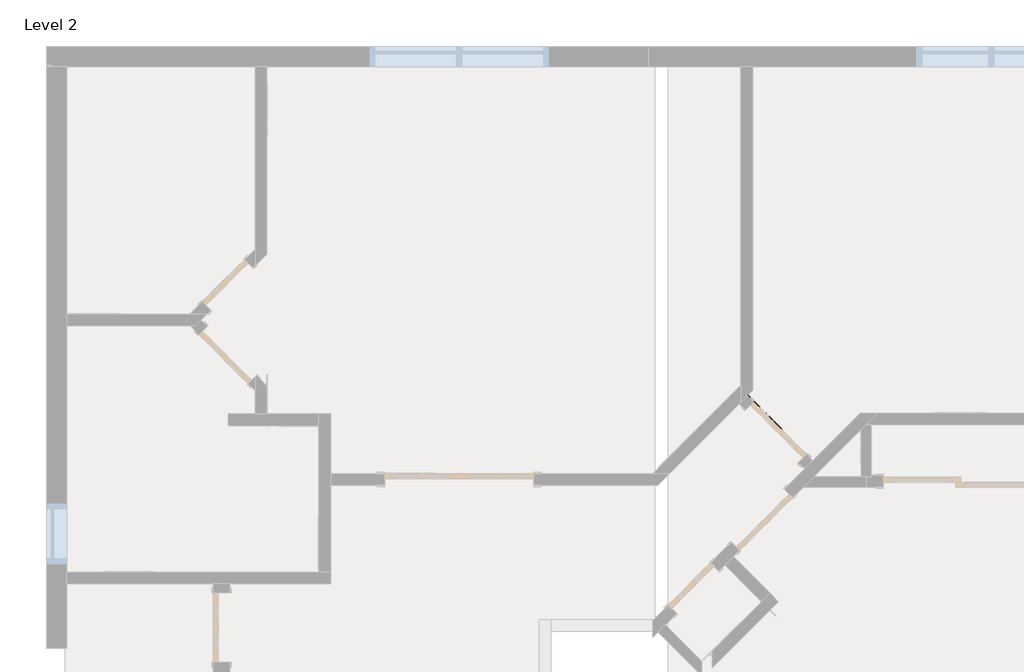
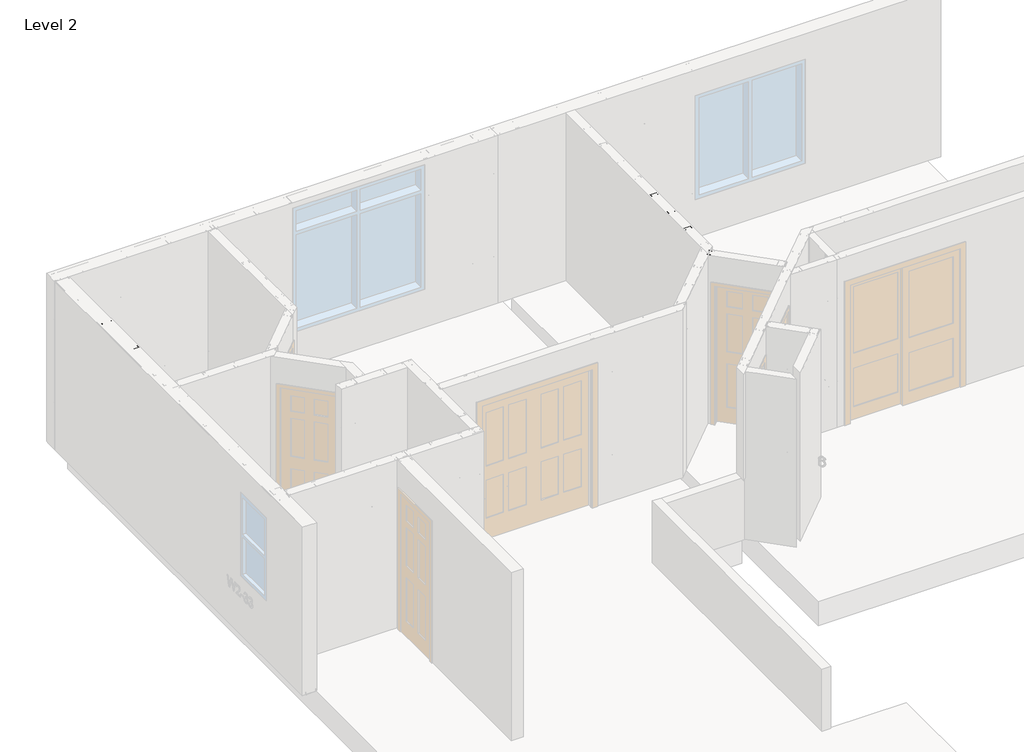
# One storey, part 33 of 46: 6 columns, 1 fastener.
"""IFC4 building model written with IfcOpenShell, lengths in millimetres."""

from ifc_helpers import new_model, si_unit, point, frame, origin, place, context, project, spatial, circle_curve, ellipse_curve, trimmed, transform, mapped, element, save
from ifc_brep_helpers import plane_surface, extruded_surface, advanced_brep
from components import panellabel_6e815555

model = new_model("IFC4")

# Units and contexts
model_context = context("Model", 3, world=origin())
ifc_project = project(units=[si_unit("LENGTHUNIT", "METRE", prefix="MILLI")], contexts=[model_context])

# Site, building, storey
site = spatial("IfcSite", under=ifc_project)
building = spatial("IfcBuilding", under=site)
storey = spatial("IfcBuildingStorey", under=building, Name="Level 2", Elevation=3060.7)

# Columns
placement = place(None, origin())
element("IfcColumn", 1, ObjectType="BIMSF-SSMA-S-Column : 350NF150-33", at=placement, inside=storey, context=model_context, shape_type="AdvancedBrep", body=[
    advanced_brep(
    [(-8208.0235524, 11852.402221, 3061.5929687), (-8119.1235524, 11852.402221, 3061.5929687), (-8119.1235524, 11814.302221, 3061.5929687), (-8124.7810682, 11814.302221, 3061.5929687), (-8124.7810682, 11815.1845367, 3061.5929687), (-8120.0058682, 11815.1845367, 3061.5929687), (-8120.0058682, 11851.5199052, 3061.5929687), (-8207.1412366, 11851.5199052, 3061.5929687), (-8207.1412366, 11815.1845367, 3061.5929687), (-8202.3660366, 11815.1845367, 3061.5929687), (-8202.3660366, 11814.302221, 3061.5929687), (-8208.0235524, 11814.302221, 3061.5929687), (-8208.0235524, 11852.402221, 5523.6070313), (-8119.1235524, 11852.402221, 5523.6070313), (-8150.8735524, 11852.402221, 3671.1929688), (-8176.2735524, 11852.402221, 3671.1929688), (-8150.8735524, 11852.402221, 4890.3929687), (-8176.2735524, 11852.402221, 4890.3929687), (-8119.1235524, 11814.302221, 5523.6070313), (-8124.7810682, 11814.302221, 5523.6070313), (-8124.7810682, 11815.1845367, 5523.6070313), (-8120.0058682, 11815.1845367, 5523.6070313), (-8120.0058682, 11851.5199052, 5523.6070313), (-8207.1412366, 11851.5199052, 5523.6070313), (-8176.2735524, 11851.5199052, 3671.1929688), (-8150.8735524, 11851.5199052, 3671.1929688), (-8176.2735524, 11851.5199052, 4890.3929687), (-8150.8735524, 11851.5199052, 4890.3929687), (-8207.1412366, 11815.1845367, 5523.6070313), (-8202.3660366, 11815.1845367, 5523.6070313), (-8202.3660366, 11814.302221, 5523.6070313), (-8208.0235524, 11814.302221, 5523.6070313)],
    [
        (0, 1),
        (1, 2),
        (2, 3),
        (3, 4),
        (4, 5),
        (5, 6),
        (6, 7),
        (7, 8),
        (8, 9),
        (9, 10),
        (10, 11),
        (11, 0),
        (0, 12),
        (12, 13),
        (13, 1),
        (14, 15, circle_curve(frame((-8163.5735524, 11852.402221, 3671.1929688), z_axis=(0.0, -1.0, 0.0), x_axis=(1.0, 0.0, 0.0)), 12.7)),
        (15, 14, circle_curve(frame((-8163.5735524, 11852.402221, 3671.1929687), z_axis=(0.0, -1.0, 0.0), x_axis=(1.0, 0.0, 0.0)), 12.7)),
        (16, 17, circle_curve(frame((-8163.5735524, 11852.402221, 4890.3929687), z_axis=(0.0, -1.0, 0.0), x_axis=(1.0, 0.0, 0.0)), 12.7)),
        (17, 16, circle_curve(frame((-8163.5735524, 11852.402221, 4890.3929687), z_axis=(0.0, -1.0, 0.0), x_axis=(1.0, 0.0, 0.0)), 12.7)),
        (13, 18),
        (18, 2),
        (18, 19),
        (19, 3),
        (19, 20),
        (20, 4),
        (20, 21),
        (21, 5),
        (21, 22),
        (22, 6),
        (22, 23),
        (23, 7),
        (24, 25, circle_curve(frame((-8163.5735524, 11851.5199052, 3671.1929688), z_axis=(0.0, 1.0, 0.0), x_axis=(1.0, 0.0, 0.0)), 12.7)),
        (25, 24, circle_curve(frame((-8163.5735524, 11851.5199052, 3671.1929688), z_axis=(0.0, 1.0, 0.0), x_axis=(1.0, 0.0, 0.0)), 12.7)),
        (26, 27, circle_curve(frame((-8163.5735524, 11851.5199052, 4890.3929687), z_axis=(0.0, 1.0, 0.0), x_axis=(1.0, 0.0, 0.0)), 12.7)),
        (27, 26, circle_curve(frame((-8163.5735524, 11851.5199052, 4890.3929687), z_axis=(0.0, 1.0, 0.0), x_axis=(1.0, 0.0, 0.0)), 12.7)),
        (23, 28),
        (28, 8),
        (28, 29),
        (29, 9),
        (29, 30),
        (30, 10),
        (30, 31),
        (31, 11),
        (31, 12),
        (24, 15),
        (14, 25),
        (26, 17),
        (16, 27),
    ],
    [
        plane_surface(frame((-8208.0235524, 11852.402221, 3061.5929687), z_axis=(0.0, 0.0, -1.0), x_axis=(0.0, 1.0, 0.0))),
        plane_surface(frame((-8119.1235524, 11852.402221, 5523.6070313), z_axis=(0.0, 1.0, 0.0), x_axis=(0.0, 0.0, -1.0))),
        plane_surface(frame((-8119.1235524, 11814.302221, 5523.6070313), z_axis=(1.0, 0.0, 0.0), x_axis=(0.0, 0.0, -1.0))),
        plane_surface(frame((-8124.7810682, 11814.302221, 5523.6070313), z_axis=(0.0, -1.0, 0.0), x_axis=(0.0, 0.0, -1.0))),
        plane_surface(frame((-8124.7810682, 11815.1845367, 5523.6070313), z_axis=(-1.0, 0.0, 0.0), x_axis=(0.0, 0.0, -1.0))),
        plane_surface(frame((-8120.0058682, 11815.1845367, 5523.6070313), z_axis=(0.0, 1.0, 0.0), x_axis=(0.0, 0.0, -1.0))),
        plane_surface(frame((-8120.0058682, 11851.5199052, 5523.6070313), z_axis=(-1.0, 0.0, 0.0), x_axis=(0.0, 0.0, -1.0))),
        plane_surface(frame((-8207.1412366, 11851.5199052, 5523.6070313), z_axis=(0.0, -1.0, 0.0), x_axis=(0.0, 0.0, -1.0))),
        plane_surface(frame((-8207.1412366, 11815.1845367, 5523.6070313), z_axis=(1.0, 0.0, 0.0), x_axis=(0.0, 0.0, -1.0))),
        plane_surface(frame((-8202.3660366, 11815.1845367, 5523.6070313), z_axis=(0.0, 1.0, 0.0), x_axis=(0.0, 0.0, -1.0))),
        plane_surface(frame((-8202.3660366, 11814.302221, 5523.6070313), z_axis=(1.0, 0.0, 0.0), x_axis=(0.0, 0.0, -1.0))),
        plane_surface(frame((-8208.0235524, 11814.302221, 5523.6070313), z_axis=(0.0, -1.0, 0.0), x_axis=(0.0, 0.0, -1.0))),
        plane_surface(frame((-8208.0235524, 11852.402221, 5523.6070313), z_axis=(-1.0, 0.0, 0.0), x_axis=(0.0, 0.0, -1.0))),
        plane_surface(frame((-8208.0235524, 11852.402221, 5523.6070313), z_axis=(0.0, 0.0, 1.0), x_axis=(0.0, -1.0, 0.0))),
        extruded_surface(trimmed(ellipse_curve(frame((-8163.5735524, 9371.3381585, 3671.1929688), z_axis=(0.0, 1.0, 0.0), x_axis=(1.0, 0.0, 0.0)), 12.7, 12.7), [point((-8176.2735524, 9371.3381585, 3671.1929688))], [point((-8150.8735524, 9371.3381585, 3671.1929688))], True, "CARTESIAN"), (0.0, -4924.028125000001, 0.0), 4924.028125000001),
        extruded_surface(trimmed(ellipse_curve(frame((-8163.5735524, 9371.3381585, 3671.1929688), z_axis=(0.0, 1.0, 0.0), x_axis=(1.0, 0.0, 0.0)), 12.7, 12.7), [point((-8150.8735524, 9371.3381585, 3671.1929688))], [point((-8176.2735524, 9371.3381585, 3671.1929688))], True, "CARTESIAN"), (0.0, -4924.028125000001, 0.0), 4924.028125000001),
        extruded_surface(trimmed(ellipse_curve(frame((-8163.5735524, 9371.3381585, 4890.3929687), z_axis=(0.0, 1.0, 0.0), x_axis=(1.0, 0.0, 0.0)), 12.7, 12.7), [point((-8176.2735524, 9371.3381585, 4890.3929687))], [point((-8150.8735524, 9371.3381585, 4890.3929687))], True, "CARTESIAN"), (0.0, -4924.028125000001, 0.0), 4924.028125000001),
        extruded_surface(trimmed(ellipse_curve(frame((-8163.5735524, 9371.3381585, 4890.3929687), z_axis=(0.0, 1.0, 0.0), x_axis=(1.0, 0.0, 0.0)), 12.7, 12.7), [point((-8150.8735524, 9371.3381585, 4890.3929687))], [point((-8176.2735524, 9371.3381585, 4890.3929687))], True, "CARTESIAN"), (0.0, -4924.028125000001, 0.0), 4924.028125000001),
    ],
    [
        (0, [[1, 2, 3, 4, 5, 6, 7, 8, 9, 10, 11, 12]]),
        (1, [[-1, 13, 14, 15], [16, 17], [18, 19]]),
        (2, [[-2, -15, 20, 21]]),
        (3, [[-3, -21, 22, 23]]),
        (4, [[-4, -23, 24, 25]]),
        (5, [[-5, -25, 26, 27]]),
        (6, [[-6, -27, 28, 29]]),
        (7, [[-7, -29, 30, 31], [32, 33], [34, 35]]),
        (8, [[-8, -31, 36, 37]]),
        (9, [[-9, -37, 38, 39]]),
        (10, [[-10, -39, 40, 41]]),
        (11, [[-11, -41, 42, 43]]),
        (12, [[-12, -43, 44, -13]]),
        (13, [[-14, -44, -42, -40, -38, -36, -30, -28, -26, -24, -22, -20]]),
        (14, [[45, -16, 46, -32]]),
        (15, [[-45, -33, -46, -17]]),
        (16, [[47, -18, 48, -34]]),
        (17, [[-47, -35, -48, -19]]),
    ],
),
])
element("IfcColumn", 2, ObjectType="BIMSF-SSMA-S-Column : 350NF150-33", at=placement, inside=storey, context=model_context, shape_type="AdvancedBrep", body=[
    advanced_brep(
    [(-8208.0235524, 11446.002221, 3061.5929687), (-8119.1235524, 11446.002221, 3061.5929687), (-8119.1235524, 11407.902221, 3061.5929687), (-8124.7810682, 11407.902221, 3061.5929687), (-8124.7810682, 11408.7845367, 3061.5929687), (-8120.0058682, 11408.7845367, 3061.5929687), (-8120.0058682, 11445.1199052, 3061.5929687), (-8207.1412366, 11445.1199052, 3061.5929687), (-8207.1412366, 11408.7845367, 3061.5929687), (-8202.3660366, 11408.7845367, 3061.5929687), (-8202.3660366, 11407.902221, 3061.5929687), (-8208.0235524, 11407.902221, 3061.5929687), (-8208.0235524, 11446.002221, 5523.6070313), (-8119.1235524, 11446.002221, 5523.6070313), (-8150.8735524, 11446.002221, 3671.1929688), (-8176.2735524, 11446.002221, 3671.1929688), (-8150.8735524, 11446.002221, 4890.3929687), (-8176.2735524, 11446.002221, 4890.3929687), (-8119.1235524, 11407.902221, 5523.6070313), (-8124.7810682, 11407.902221, 5523.6070313), (-8124.7810682, 11408.7845367, 5523.6070313), (-8120.0058682, 11408.7845367, 5523.6070313), (-8120.0058682, 11445.1199052, 5523.6070313), (-8207.1412366, 11445.1199052, 5523.6070313), (-8176.2735524, 11445.1199052, 3671.1929688), (-8150.8735524, 11445.1199052, 3671.1929688), (-8176.2735524, 11445.1199052, 4890.3929687), (-8150.8735524, 11445.1199052, 4890.3929687), (-8207.1412366, 11408.7845367, 5523.6070313), (-8202.3660366, 11408.7845367, 5523.6070313), (-8202.3660366, 11407.902221, 5523.6070313), (-8208.0235524, 11407.902221, 5523.6070313)],
    [
        (0, 1),
        (1, 2),
        (2, 3),
        (3, 4),
        (4, 5),
        (5, 6),
        (6, 7),
        (7, 8),
        (8, 9),
        (9, 10),
        (10, 11),
        (11, 0),
        (0, 12),
        (12, 13),
        (13, 1),
        (14, 15, circle_curve(frame((-8163.5735524, 11446.002221, 3671.1929687), z_axis=(0.0, -1.0, 0.0), x_axis=(1.0, 0.0, 0.0)), 12.7)),
        (15, 14, circle_curve(frame((-8163.5735524, 11446.002221, 3671.1929687), z_axis=(0.0, -1.0, 0.0), x_axis=(1.0, 0.0, 0.0)), 12.7)),
        (16, 17, circle_curve(frame((-8163.5735524, 11446.002221, 4890.3929687), z_axis=(0.0, -1.0, 0.0), x_axis=(1.0, 0.0, 0.0)), 12.7)),
        (17, 16, circle_curve(frame((-8163.5735524, 11446.002221, 4890.3929687), z_axis=(0.0, -1.0, 0.0), x_axis=(1.0, 0.0, 0.0)), 12.7)),
        (13, 18),
        (18, 2),
        (18, 19),
        (19, 3),
        (19, 20),
        (20, 4),
        (20, 21),
        (21, 5),
        (21, 22),
        (22, 6),
        (22, 23),
        (23, 7),
        (24, 25, circle_curve(frame((-8163.5735524, 11445.1199052, 3671.1929688), z_axis=(0.0, 1.0, 0.0), x_axis=(1.0, 0.0, 0.0)), 12.7)),
        (25, 24, circle_curve(frame((-8163.5735524, 11445.1199052, 3671.1929688), z_axis=(0.0, 1.0, 0.0), x_axis=(1.0, 0.0, 0.0)), 12.7)),
        (26, 27, circle_curve(frame((-8163.5735524, 11445.1199052, 4890.3929687), z_axis=(0.0, 1.0, 0.0), x_axis=(1.0, 0.0, 0.0)), 12.7)),
        (27, 26, circle_curve(frame((-8163.5735524, 11445.1199052, 4890.3929687), z_axis=(0.0, 1.0, 0.0), x_axis=(1.0, 0.0, 0.0)), 12.7)),
        (23, 28),
        (28, 8),
        (28, 29),
        (29, 9),
        (29, 30),
        (30, 10),
        (30, 31),
        (31, 11),
        (31, 12),
        (24, 15),
        (14, 25),
        (26, 17),
        (16, 27),
    ],
    [
        plane_surface(frame((-8208.0235524, 11446.002221, 3061.5929687), z_axis=(0.0, 0.0, -1.0), x_axis=(0.0, 1.0, 0.0))),
        plane_surface(frame((-8119.1235524, 11446.002221, 5523.6070313), z_axis=(0.0, 1.0, 0.0), x_axis=(0.0, 0.0, -1.0))),
        plane_surface(frame((-8119.1235524, 11407.902221, 5523.6070313), z_axis=(1.0, 0.0, 0.0), x_axis=(0.0, 0.0, -1.0))),
        plane_surface(frame((-8124.7810682, 11407.902221, 5523.6070313), z_axis=(0.0, -1.0, 0.0), x_axis=(0.0, 0.0, -1.0))),
        plane_surface(frame((-8124.7810682, 11408.7845367, 5523.6070313), z_axis=(-1.0, 0.0, 0.0), x_axis=(0.0, 0.0, -1.0))),
        plane_surface(frame((-8120.0058682, 11408.7845367, 5523.6070313), z_axis=(0.0, 1.0, 0.0), x_axis=(0.0, 0.0, -1.0))),
        plane_surface(frame((-8120.0058682, 11445.1199052, 5523.6070313), z_axis=(-1.0, 0.0, 0.0), x_axis=(0.0, 0.0, -1.0))),
        plane_surface(frame((-8207.1412366, 11445.1199052, 5523.6070313), z_axis=(0.0, -1.0, 0.0), x_axis=(0.0, 0.0, -1.0))),
        plane_surface(frame((-8207.1412366, 11408.7845367, 5523.6070313), z_axis=(1.0, 0.0, 0.0), x_axis=(0.0, 0.0, -1.0))),
        plane_surface(frame((-8202.3660366, 11408.7845367, 5523.6070313), z_axis=(0.0, 1.0, 0.0), x_axis=(0.0, 0.0, -1.0))),
        plane_surface(frame((-8202.3660366, 11407.902221, 5523.6070313), z_axis=(1.0, 0.0, 0.0), x_axis=(0.0, 0.0, -1.0))),
        plane_surface(frame((-8208.0235524, 11407.902221, 5523.6070313), z_axis=(0.0, -1.0, 0.0), x_axis=(0.0, 0.0, -1.0))),
        plane_surface(frame((-8208.0235524, 11446.002221, 5523.6070313), z_axis=(-1.0, 0.0, 0.0), x_axis=(0.0, 0.0, -1.0))),
        plane_surface(frame((-8208.0235524, 11446.002221, 5523.6070313), z_axis=(0.0, 0.0, 1.0), x_axis=(0.0, -1.0, 0.0))),
        extruded_surface(trimmed(ellipse_curve(frame((-8163.5735524, 8964.9381585, 3671.1929688), z_axis=(0.0, 1.0, 0.0), x_axis=(1.0, 0.0, 0.0)), 12.7, 12.7), [point((-8176.2735524, 8964.9381585, 3671.1929688))], [point((-8150.8735524, 8964.9381585, 3671.1929688))], True, "CARTESIAN"), (0.0, -4924.028124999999, 0.0), 4924.028124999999),
        extruded_surface(trimmed(ellipse_curve(frame((-8163.5735524, 8964.9381585, 3671.1929688), z_axis=(0.0, 1.0, 0.0), x_axis=(1.0, 0.0, 0.0)), 12.7, 12.7), [point((-8150.8735524, 8964.9381585, 3671.1929688))], [point((-8176.2735524, 8964.9381585, 3671.1929688))], True, "CARTESIAN"), (0.0, -4924.028124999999, 0.0), 4924.028124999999),
        extruded_surface(trimmed(ellipse_curve(frame((-8163.5735524, 8964.9381585, 4890.3929687), z_axis=(0.0, 1.0, 0.0), x_axis=(1.0, 0.0, 0.0)), 12.7, 12.7), [point((-8176.2735524, 8964.9381585, 4890.3929687))], [point((-8150.8735524, 8964.9381585, 4890.3929687))], True, "CARTESIAN"), (0.0, -4924.028124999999, 0.0), 4924.028124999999),
        extruded_surface(trimmed(ellipse_curve(frame((-8163.5735524, 8964.9381585, 4890.3929687), z_axis=(0.0, 1.0, 0.0), x_axis=(1.0, 0.0, 0.0)), 12.7, 12.7), [point((-8150.8735524, 8964.9381585, 4890.3929687))], [point((-8176.2735524, 8964.9381585, 4890.3929687))], True, "CARTESIAN"), (0.0, -4924.028124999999, 0.0), 4924.028124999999),
    ],
    [
        (0, [[1, 2, 3, 4, 5, 6, 7, 8, 9, 10, 11, 12]]),
        (1, [[-1, 13, 14, 15], [16, 17], [18, 19]]),
        (2, [[-2, -15, 20, 21]]),
        (3, [[-3, -21, 22, 23]]),
        (4, [[-4, -23, 24, 25]]),
        (5, [[-5, -25, 26, 27]]),
        (6, [[-6, -27, 28, 29]]),
        (7, [[-7, -29, 30, 31], [32, 33], [34, 35]]),
        (8, [[-8, -31, 36, 37]]),
        (9, [[-9, -37, 38, 39]]),
        (10, [[-10, -39, 40, 41]]),
        (11, [[-11, -41, 42, 43]]),
        (12, [[-12, -43, 44, -13]]),
        (13, [[-14, -44, -42, -40, -38, -36, -30, -28, -26, -24, -22, -20]]),
        (14, [[45, -16, 46, -32]]),
        (15, [[-45, -33, -46, -17]]),
        (16, [[47, -18, 48, -34]]),
        (17, [[-47, -35, -48, -19]]),
    ],
),
])
element("IfcColumn", 3, ObjectType="BIMSF-SSMA-S-Column : 350NF150-33", at=placement, inside=storey, context=model_context, shape_type="AdvancedBrep", body=[
    advanced_brep(
    [(-8208.0235524, 11039.602221, 3061.5929687), (-8119.1235524, 11039.602221, 3061.5929687), (-8119.1235524, 11001.502221, 3061.5929687), (-8124.7810682, 11001.502221, 3061.5929687), (-8124.7810682, 11002.3845367, 3061.5929687), (-8120.0058682, 11002.3845367, 3061.5929687), (-8120.0058682, 11038.7199052, 3061.5929687), (-8207.1412366, 11038.7199052, 3061.5929687), (-8207.1412366, 11002.3845367, 3061.5929687), (-8202.3660366, 11002.3845367, 3061.5929687), (-8202.3660366, 11001.502221, 3061.5929687), (-8208.0235524, 11001.502221, 3061.5929687), (-8208.0235524, 11039.602221, 5523.6070313), (-8119.1235524, 11039.602221, 5523.6070313), (-8150.8735524, 11039.602221, 3671.1929688), (-8176.2735524, 11039.602221, 3671.1929688), (-8150.8735524, 11039.602221, 4890.3929687), (-8176.2735524, 11039.602221, 4890.3929687), (-8119.1235524, 11001.502221, 5523.6070313), (-8124.7810682, 11001.502221, 5523.6070313), (-8124.7810682, 11002.3845367, 5523.6070313), (-8120.0058682, 11002.3845367, 5523.6070313), (-8120.0058682, 11038.7199052, 5523.6070313), (-8207.1412366, 11038.7199052, 5523.6070313), (-8176.2735524, 11038.7199052, 3671.1929688), (-8150.8735524, 11038.7199052, 3671.1929688), (-8176.2735524, 11038.7199052, 4890.3929687), (-8150.8735524, 11038.7199052, 4890.3929687), (-8207.1412366, 11002.3845367, 5523.6070313), (-8202.3660366, 11002.3845367, 5523.6070313), (-8202.3660366, 11001.502221, 5523.6070313), (-8208.0235524, 11001.502221, 5523.6070313)],
    [
        (0, 1),
        (1, 2),
        (2, 3),
        (3, 4),
        (4, 5),
        (5, 6),
        (6, 7),
        (7, 8),
        (8, 9),
        (9, 10),
        (10, 11),
        (11, 0),
        (0, 12),
        (12, 13),
        (13, 1),
        (14, 15, circle_curve(frame((-8163.5735524, 11039.602221, 3671.1929687), z_axis=(0.0, -1.0, 0.0), x_axis=(1.0, 0.0, 0.0)), 12.7)),
        (15, 14, circle_curve(frame((-8163.5735524, 11039.602221, 3671.1929687), z_axis=(0.0, -1.0, 0.0), x_axis=(1.0, 0.0, 0.0)), 12.7)),
        (16, 17, circle_curve(frame((-8163.5735524, 11039.602221, 4890.3929687), z_axis=(0.0, -1.0, 0.0), x_axis=(1.0, 0.0, 0.0)), 12.7)),
        (17, 16, circle_curve(frame((-8163.5735524, 11039.602221, 4890.3929687), z_axis=(0.0, -1.0, 0.0), x_axis=(1.0, 0.0, 0.0)), 12.7)),
        (13, 18),
        (18, 2),
        (18, 19),
        (19, 3),
        (19, 20),
        (20, 4),
        (20, 21),
        (21, 5),
        (21, 22),
        (22, 6),
        (22, 23),
        (23, 7),
        (24, 25, circle_curve(frame((-8163.5735524, 11038.7199052, 3671.1929688), z_axis=(0.0, 1.0, 0.0), x_axis=(1.0, 0.0, 0.0)), 12.7)),
        (25, 24, circle_curve(frame((-8163.5735524, 11038.7199052, 3671.1929688), z_axis=(0.0, 1.0, 0.0), x_axis=(1.0, 0.0, 0.0)), 12.7)),
        (26, 27, circle_curve(frame((-8163.5735524, 11038.7199052, 4890.3929687), z_axis=(0.0, 1.0, 0.0), x_axis=(1.0, 0.0, 0.0)), 12.7)),
        (27, 26, circle_curve(frame((-8163.5735524, 11038.7199052, 4890.3929687), z_axis=(0.0, 1.0, 0.0), x_axis=(1.0, 0.0, 0.0)), 12.7)),
        (23, 28),
        (28, 8),
        (28, 29),
        (29, 9),
        (29, 30),
        (30, 10),
        (30, 31),
        (31, 11),
        (31, 12),
        (24, 15),
        (14, 25),
        (26, 17),
        (16, 27),
    ],
    [
        plane_surface(frame((-8208.0235524, 11039.602221, 3061.5929687), z_axis=(0.0, 0.0, -1.0), x_axis=(0.0, 1.0, 0.0))),
        plane_surface(frame((-8119.1235524, 11039.602221, 5523.6070313), z_axis=(0.0, 1.0, 0.0), x_axis=(0.0, 0.0, -1.0))),
        plane_surface(frame((-8119.1235524, 11001.502221, 5523.6070313), z_axis=(1.0, 0.0, 0.0), x_axis=(0.0, 0.0, -1.0))),
        plane_surface(frame((-8124.7810682, 11001.502221, 5523.6070313), z_axis=(0.0, -1.0, 0.0), x_axis=(0.0, 0.0, -1.0))),
        plane_surface(frame((-8124.7810682, 11002.3845367, 5523.6070313), z_axis=(-1.0, 0.0, 0.0), x_axis=(0.0, 0.0, -1.0))),
        plane_surface(frame((-8120.0058682, 11002.3845367, 5523.6070313), z_axis=(0.0, 1.0, 0.0), x_axis=(0.0, 0.0, -1.0))),
        plane_surface(frame((-8120.0058682, 11038.7199052, 5523.6070313), z_axis=(-1.0, 0.0, 0.0), x_axis=(0.0, 0.0, -1.0))),
        plane_surface(frame((-8207.1412366, 11038.7199052, 5523.6070313), z_axis=(0.0, -1.0, 0.0), x_axis=(0.0, 0.0, -1.0))),
        plane_surface(frame((-8207.1412366, 11002.3845367, 5523.6070313), z_axis=(1.0, 0.0, 0.0), x_axis=(0.0, 0.0, -1.0))),
        plane_surface(frame((-8202.3660366, 11002.3845367, 5523.6070313), z_axis=(0.0, 1.0, 0.0), x_axis=(0.0, 0.0, -1.0))),
        plane_surface(frame((-8202.3660366, 11001.502221, 5523.6070313), z_axis=(1.0, 0.0, 0.0), x_axis=(0.0, 0.0, -1.0))),
        plane_surface(frame((-8208.0235524, 11001.502221, 5523.6070313), z_axis=(0.0, -1.0, 0.0), x_axis=(0.0, 0.0, -1.0))),
        plane_surface(frame((-8208.0235524, 11039.602221, 5523.6070313), z_axis=(-1.0, 0.0, 0.0), x_axis=(0.0, 0.0, -1.0))),
        plane_surface(frame((-8208.0235524, 11039.602221, 5523.6070313), z_axis=(0.0, 0.0, 1.0), x_axis=(0.0, -1.0, 0.0))),
        extruded_surface(trimmed(ellipse_curve(frame((-8163.5735524, 8558.5381585, 3671.1929688), z_axis=(0.0, 1.0, 0.0), x_axis=(1.0, 0.0, 0.0)), 12.7, 12.7), [point((-8176.2735524, 8558.5381585, 3671.1929688))], [point((-8150.8735524, 8558.5381585, 3671.1929688))], True, "CARTESIAN"), (0.0, -4924.028124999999, 0.0), 4924.028124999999),
        extruded_surface(trimmed(ellipse_curve(frame((-8163.5735524, 8558.5381585, 3671.1929688), z_axis=(0.0, 1.0, 0.0), x_axis=(1.0, 0.0, 0.0)), 12.7, 12.7), [point((-8150.8735524, 8558.5381585, 3671.1929688))], [point((-8176.2735524, 8558.5381585, 3671.1929688))], True, "CARTESIAN"), (0.0, -4924.028124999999, 0.0), 4924.028124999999),
        extruded_surface(trimmed(ellipse_curve(frame((-8163.5735524, 8558.5381585, 4890.3929687), z_axis=(0.0, 1.0, 0.0), x_axis=(1.0, 0.0, 0.0)), 12.7, 12.7), [point((-8176.2735524, 8558.5381585, 4890.3929687))], [point((-8150.8735524, 8558.5381585, 4890.3929687))], True, "CARTESIAN"), (0.0, -4924.028124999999, 0.0), 4924.028124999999),
        extruded_surface(trimmed(ellipse_curve(frame((-8163.5735524, 8558.5381585, 4890.3929687), z_axis=(0.0, 1.0, 0.0), x_axis=(1.0, 0.0, 0.0)), 12.7, 12.7), [point((-8150.8735524, 8558.5381585, 4890.3929687))], [point((-8176.2735524, 8558.5381585, 4890.3929687))], True, "CARTESIAN"), (0.0, -4924.028124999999, 0.0), 4924.028124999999),
    ],
    [
        (0, [[1, 2, 3, 4, 5, 6, 7, 8, 9, 10, 11, 12]]),
        (1, [[-1, 13, 14, 15], [16, 17], [18, 19]]),
        (2, [[-2, -15, 20, 21]]),
        (3, [[-3, -21, 22, 23]]),
        (4, [[-4, -23, 24, 25]]),
        (5, [[-5, -25, 26, 27]]),
        (6, [[-6, -27, 28, 29]]),
        (7, [[-7, -29, 30, 31], [32, 33], [34, 35]]),
        (8, [[-8, -31, 36, 37]]),
        (9, [[-9, -37, 38, 39]]),
        (10, [[-10, -39, 40, 41]]),
        (11, [[-11, -41, 42, 43]]),
        (12, [[-12, -43, 44, -13]]),
        (13, [[-14, -44, -42, -40, -38, -36, -30, -28, -26, -24, -22, -20]]),
        (14, [[45, -16, 46, -32]]),
        (15, [[-45, -33, -46, -17]]),
        (16, [[47, -18, 48, -34]]),
        (17, [[-47, -35, -48, -19]]),
    ],
),
])
element("IfcColumn", 4, ObjectType="BIMSF-SSMA-S-Column : 350NF150-33", at=placement, inside=storey, context=model_context, shape_type="AdvancedBrep", body=[
    advanced_brep(
    [(-8239.234478, 10429.7104921, 3061.5929687), (-8176.3726852, 10492.572285, 3061.5929687), (-8149.4319168, 10465.6315166, 3061.5929687), (-8153.4323846, 10461.6310488, 3061.5929687), (-8154.056276, 10462.2549403, 3061.5929687), (-8150.6796997, 10465.6315166, 3061.5929687), (-8176.3726852, 10491.324502, 3061.5929687), (-8237.9866951, 10429.7104921, 3061.5929687), (-8212.2937096, 10404.0175067, 3061.5929687), (-8208.9171333, 10407.394083, 3061.5929687), (-8208.2932419, 10406.7701915, 3061.5929687), (-8212.2937096, 10402.7697238, 3061.5929687), (-8239.234478, 10429.7104921, 5523.6070313), (-8176.3726852, 10492.572285, 5523.6070313), (-8198.8233255, 10470.1216447, 3671.1929687), (-8216.7838377, 10452.1611324, 3671.1929687), (-8198.8233255, 10470.1216447, 4890.3929687), (-8216.7838377, 10452.1611324, 4890.3929687), (-8149.4319168, 10465.6315166, 5523.6070313), (-8153.4323846, 10461.6310488, 5523.6070313), (-8154.056276, 10462.2549403, 5523.6070313), (-8150.6796997, 10465.6315166, 5523.6070313), (-8176.3726852, 10491.324502, 5523.6070313), (-8237.9866951, 10429.7104921, 5523.6070313), (-8216.1599462, 10451.537241, 3671.1929687), (-8198.199434, 10469.4977532, 3671.1929687), (-8216.1599462, 10451.537241, 4890.3929687), (-8198.199434, 10469.4977532, 4890.3929687), (-8212.2937096, 10404.0175067, 5523.6070313), (-8208.9171333, 10407.394083, 5523.6070313), (-8208.2932419, 10406.7701915, 5523.6070313), (-8212.2937096, 10402.7697238, 5523.6070313)],
    [
        (0, 1),
        (1, 2),
        (2, 3),
        (3, 4),
        (4, 5),
        (5, 6),
        (6, 7),
        (7, 8),
        (8, 9),
        (9, 10),
        (10, 11),
        (11, 0),
        (0, 12),
        (12, 13),
        (13, 1),
        (14, 15, circle_curve(frame((-8207.8035816, 10461.1413886, 3671.1929688), z_axis=(0.7071067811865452, -0.7071067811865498, 0.0), x_axis=(0.7071067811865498, 0.7071067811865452, 0.0)), 12.7)),
        (15, 14, circle_curve(frame((-8207.8035816, 10461.1413886, 3671.1929687), z_axis=(0.7071067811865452, -0.7071067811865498, 0.0), x_axis=(0.7071067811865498, 0.7071067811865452, 0.0)), 12.7)),
        (16, 17, circle_curve(frame((-8207.8035816, 10461.1413886, 4890.3929687), z_axis=(0.7071067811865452, -0.7071067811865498, 0.0), x_axis=(0.7071067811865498, 0.7071067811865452, 0.0)), 12.7)),
        (17, 16, circle_curve(frame((-8207.8035816, 10461.1413886, 4890.3929687), z_axis=(0.7071067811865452, -0.7071067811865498, 0.0), x_axis=(0.7071067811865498, 0.7071067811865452, 0.0)), 12.7)),
        (13, 18),
        (18, 2),
        (18, 19),
        (19, 3),
        (19, 20),
        (20, 4),
        (20, 21),
        (21, 5),
        (21, 22),
        (22, 6),
        (22, 23),
        (23, 7),
        (24, 25, circle_curve(frame((-8207.1796901, 10460.5174971, 3671.1929687), z_axis=(-0.7071067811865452, 0.7071067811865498, 0.0), x_axis=(0.7071067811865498, 0.7071067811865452, 0.0)), 12.7)),
        (25, 24, circle_curve(frame((-8207.1796901, 10460.5174971, 3671.1929688), z_axis=(-0.7071067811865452, 0.7071067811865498, 0.0), x_axis=(0.7071067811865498, 0.7071067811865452, 0.0)), 12.7)),
        (26, 27, circle_curve(frame((-8207.1796901, 10460.5174971, 4890.3929687), z_axis=(-0.7071067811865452, 0.7071067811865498, 0.0), x_axis=(0.7071067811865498, 0.7071067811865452, 0.0)), 12.7)),
        (27, 26, circle_curve(frame((-8207.1796901, 10460.5174971, 4890.3929687), z_axis=(-0.7071067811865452, 0.7071067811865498, 0.0), x_axis=(0.7071067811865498, 0.7071067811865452, 0.0)), 12.7)),
        (23, 28),
        (28, 8),
        (28, 29),
        (29, 9),
        (29, 30),
        (30, 10),
        (30, 31),
        (31, 11),
        (31, 12),
        (24, 15),
        (14, 25),
        (26, 17),
        (16, 27),
    ],
    [
        plane_surface(frame((-8239.234478, 10429.7104921, 3061.5929687), z_axis=(0.0, 0.0, -1.0), x_axis=(-0.7071067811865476, 0.7071067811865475, 0.0))),
        plane_surface(frame((-8176.3726852, 10492.572285, 5523.6070313), z_axis=(-0.7071067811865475, 0.7071067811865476, 0.0), x_axis=(0.0, 0.0, -1.0))),
        plane_surface(frame((-8149.4319168, 10465.6315166, 5523.6070313), z_axis=(0.7071067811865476, 0.7071067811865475, 0.0), x_axis=(0.0, 0.0, -1.0))),
        plane_surface(frame((-8153.4323846, 10461.6310488, 5523.6070313), z_axis=(0.7071067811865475, -0.7071067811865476, 0.0), x_axis=(0.0, 0.0, -1.0))),
        plane_surface(frame((-8154.056276, 10462.2549403, 5523.6070313), z_axis=(-0.7071067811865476, -0.7071067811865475, 0.0), x_axis=(0.0, 0.0, -1.0))),
        plane_surface(frame((-8150.6796997, 10465.6315166, 5523.6070313), z_axis=(-0.7071067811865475, 0.7071067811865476, 0.0), x_axis=(0.0, 0.0, -1.0))),
        plane_surface(frame((-8176.3726852, 10491.324502, 5523.6070313), z_axis=(-0.7071067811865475, -0.7071067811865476, 0.0), x_axis=(0.0, 0.0, -1.0))),
        plane_surface(frame((-8237.9866951, 10429.7104921, 5523.6070313), z_axis=(0.7071067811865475, -0.7071067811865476, 0.0), x_axis=(0.0, 0.0, -1.0))),
        plane_surface(frame((-8212.2937096, 10404.0175067, 5523.6070313), z_axis=(0.7071067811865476, 0.7071067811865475, 0.0), x_axis=(0.0, 0.0, -1.0))),
        plane_surface(frame((-8208.9171333, 10407.394083, 5523.6070313), z_axis=(-0.7071067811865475, 0.7071067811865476, 0.0), x_axis=(0.0, 0.0, -1.0))),
        plane_surface(frame((-8208.2932419, 10406.7701915, 5523.6070313), z_axis=(0.7071067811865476, 0.7071067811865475, 0.0), x_axis=(0.0, 0.0, -1.0))),
        plane_surface(frame((-8212.2937096, 10402.7697238, 5523.6070313), z_axis=(0.7071067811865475, -0.7071067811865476, 0.0), x_axis=(0.0, 0.0, -1.0))),
        plane_surface(frame((-8239.234478, 10429.7104921, 5523.6070313), z_axis=(-0.7071067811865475, -0.7071067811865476, 0.0), x_axis=(0.0, 0.0, -1.0))),
        plane_surface(frame((-8239.234478, 10429.7104921, 5523.6070313), z_axis=(0.0, 0.0, 1.0), x_axis=(0.7071067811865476, -0.7071067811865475, 0.0))),
        extruded_surface(trimmed(ellipse_curve(frame((-6453.4263584, 8706.7641654, 3671.1929688), z_axis=(-0.7071067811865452, 0.7071067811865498, 0.0), x_axis=(0.7071067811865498, 0.7071067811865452, 0.0)), 12.7, 12.7), [point((-6462.4066146, 8697.7839093, 3671.1929688))], [point((-6444.4461023, 8715.7444215, 3671.1929688))], True, "CARTESIAN"), (3481.8136779, -3481.8136778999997, 0.0), 4924.028124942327),
        extruded_surface(trimmed(ellipse_curve(frame((-6453.4263584, 8706.7641654, 3671.1929688), z_axis=(-0.7071067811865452, 0.7071067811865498, 0.0), x_axis=(0.7071067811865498, 0.7071067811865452, 0.0)), 12.7, 12.7), [point((-6444.4461023, 8715.7444215, 3671.1929688))], [point((-6462.4066146, 8697.7839093, 3671.1929688))], True, "CARTESIAN"), (3481.8136779, -3481.8136778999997, 0.0), 4924.028124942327),
        extruded_surface(trimmed(ellipse_curve(frame((-6453.4263584, 8706.7641654, 4890.3929687), z_axis=(-0.7071067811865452, 0.7071067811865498, 0.0), x_axis=(0.7071067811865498, 0.7071067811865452, 0.0)), 12.7, 12.7), [point((-6462.4066146, 8697.7839093, 4890.3929687))], [point((-6444.4461023, 8715.7444215, 4890.3929687))], True, "CARTESIAN"), (3481.8136779, -3481.8136778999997, 0.0), 4924.028124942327),
        extruded_surface(trimmed(ellipse_curve(frame((-6453.4263584, 8706.7641654, 4890.3929687), z_axis=(-0.7071067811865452, 0.7071067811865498, 0.0), x_axis=(0.7071067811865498, 0.7071067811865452, 0.0)), 12.7, 12.7), [point((-6444.4461023, 8715.7444215, 4890.3929687))], [point((-6462.4066146, 8697.7839093, 4890.3929687))], True, "CARTESIAN"), (3481.8136779, -3481.8136778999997, 0.0), 4924.028124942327),
    ],
    [
        (0, [[1, 2, 3, 4, 5, 6, 7, 8, 9, 10, 11, 12]]),
        (1, [[-1, 13, 14, 15], [16, 17], [18, 19]]),
        (2, [[-2, -15, 20, 21]]),
        (3, [[-3, -21, 22, 23]]),
        (4, [[-4, -23, 24, 25]]),
        (5, [[-5, -25, 26, 27]]),
        (6, [[-6, -27, 28, 29]]),
        (7, [[-7, -29, 30, 31], [32, 33], [34, 35]]),
        (8, [[-8, -31, 36, 37]]),
        (9, [[-9, -37, 38, 39]]),
        (10, [[-10, -39, 40, 41]]),
        (11, [[-11, -41, 42, 43]]),
        (12, [[-12, -43, 44, -13]]),
        (13, [[-14, -44, -42, -40, -38, -36, -30, -28, -26, -24, -22, -20]]),
        (14, [[45, -16, 46, -32]]),
        (15, [[-45, -33, -46, -17]]),
        (16, [[47, -18, 48, -34]]),
        (17, [[-47, -35, -48, -19]]),
    ],
),
])
element("IfcColumn", 5, ObjectType="BIMSF-SSMA-S-Column : 550NF150-43", at=placement, inside=storey, context=model_context, shape_type="AdvancedBrep", body=[
    advanced_brep(
    [(-15124.2413349, 12155.8627774, 3061.5929687), (-15263.9413349, 12155.8627774, 3061.5929687), (-15263.9413349, 12193.9627774, 3061.5929687), (-15258.0164507, 12193.9627774, 3061.5929687), (-15258.0164507, 12192.8130931, 3061.5929687), (-15262.7916507, 12192.8130931, 3061.5929687), (-15262.7916507, 12157.0124616, 3061.5929687), (-15125.3910191, 12157.0124616, 3061.5929687), (-15125.3910191, 12192.8130931, 3061.5929687), (-15130.1662191, 12192.8130931, 3061.5929687), (-15130.1662191, 12193.9627774, 3061.5929687), (-15124.2413349, 12193.9627774, 3061.5929687), (-15124.2413349, 12155.8627774, 5523.6070313), (-15263.9413349, 12155.8627774, 5523.6070313), (-15206.7913349, 12155.8627774, 3671.1929687), (-15181.3913349, 12155.8627774, 3671.1929688), (-15206.7913349, 12155.8627774, 4890.3929687), (-15181.3913349, 12155.8627774, 4890.3929688), (-15263.9413349, 12193.9627774, 5523.6070313), (-15258.0164507, 12193.9627774, 5523.6070313), (-15258.0164507, 12192.8130931, 5523.6070313), (-15262.7916507, 12192.8130931, 5523.6070313), (-15262.7916507, 12157.0124616, 5523.6070313), (-15125.3910191, 12157.0124616, 5523.6070313), (-15181.3913349, 12157.0124616, 3671.1929688), (-15206.7913349, 12157.0124616, 3671.1929688), (-15181.3913349, 12157.0124616, 4890.3929688), (-15206.7913349, 12157.0124616, 4890.3929687), (-15125.3910191, 12192.8130931, 5523.6070313), (-15130.1662191, 12192.8130931, 5523.6070313), (-15130.1662191, 12193.9627774, 5523.6070313), (-15124.2413349, 12193.9627774, 5523.6070313)],
    [
        (0, 1),
        (1, 2),
        (2, 3),
        (3, 4),
        (4, 5),
        (5, 6),
        (6, 7),
        (7, 8),
        (8, 9),
        (9, 10),
        (10, 11),
        (11, 0),
        (0, 12),
        (12, 13),
        (13, 1),
        (14, 15, circle_curve(frame((-15194.0913349, 12155.8627774, 3671.1929687), z_axis=(0.0, 1.0, 0.0), x_axis=(-1.0, 0.0, 0.0)), 12.7)),
        (15, 14, circle_curve(frame((-15194.0913349, 12155.8627774, 3671.1929687), z_axis=(0.0, 1.0, 0.0), x_axis=(-1.0, 0.0, 0.0)), 12.7)),
        (16, 17, circle_curve(frame((-15194.0913349, 12155.8627774, 4890.3929687), z_axis=(0.0, 1.0, 0.0), x_axis=(-1.0, 0.0, 0.0)), 12.7)),
        (17, 16, circle_curve(frame((-15194.0913349, 12155.8627774, 4890.3929687), z_axis=(0.0, 1.0, 0.0), x_axis=(-1.0, 0.0, 0.0)), 12.7)),
        (13, 18),
        (18, 2),
        (18, 19),
        (19, 3),
        (19, 20),
        (20, 4),
        (20, 21),
        (21, 5),
        (21, 22),
        (22, 6),
        (22, 23),
        (23, 7),
        (24, 25, circle_curve(frame((-15194.0913349, 12157.0124616, 3671.1929687), z_axis=(0.0, -1.0, 0.0), x_axis=(-1.0, 0.0, 0.0)), 12.7)),
        (25, 24, circle_curve(frame((-15194.0913349, 12157.0124616, 3671.1929687), z_axis=(0.0, -1.0, 0.0), x_axis=(-1.0, 0.0, 0.0)), 12.7)),
        (26, 27, circle_curve(frame((-15194.0913349, 12157.0124616, 4890.3929687), z_axis=(0.0, -1.0, 0.0), x_axis=(-1.0, 0.0, 0.0)), 12.7)),
        (27, 26, circle_curve(frame((-15194.0913349, 12157.0124616, 4890.3929687), z_axis=(0.0, -1.0, 0.0), x_axis=(-1.0, 0.0, 0.0)), 12.7)),
        (23, 28),
        (28, 8),
        (28, 29),
        (29, 9),
        (29, 30),
        (30, 10),
        (30, 31),
        (31, 11),
        (31, 12),
        (24, 15),
        (14, 25),
        (26, 17),
        (16, 27),
    ],
    [
        plane_surface(frame((-15124.2413349, 12155.8627774, 3061.5929687), z_axis=(0.0, 0.0, -1.0), x_axis=(0.0, -1.0, 0.0))),
        plane_surface(frame((-15263.9413349, 12155.8627774, 5523.6070313), z_axis=(0.0, -1.0, 0.0), x_axis=(0.0, 0.0, -1.0))),
        plane_surface(frame((-15263.9413349, 12193.9627774, 5523.6070313), z_axis=(-1.0, 0.0, 0.0), x_axis=(0.0, 0.0, -1.0))),
        plane_surface(frame((-15258.0164507, 12193.9627774, 5523.6070313), z_axis=(0.0, 1.0, 0.0), x_axis=(0.0, 0.0, -1.0))),
        plane_surface(frame((-15258.0164507, 12192.8130931, 5523.6070313), z_axis=(1.0, 0.0, 0.0), x_axis=(0.0, 0.0, -1.0))),
        plane_surface(frame((-15262.7916507, 12192.8130931, 5523.6070313), z_axis=(0.0, -1.0, 0.0), x_axis=(0.0, 0.0, -1.0))),
        plane_surface(frame((-15262.7916507, 12157.0124616, 5523.6070313), z_axis=(1.0, 0.0, 0.0), x_axis=(0.0, 0.0, -1.0))),
        plane_surface(frame((-15125.3910191, 12157.0124616, 5523.6070313), z_axis=(0.0, 1.0, 0.0), x_axis=(0.0, 0.0, -1.0))),
        plane_surface(frame((-15125.3910191, 12192.8130931, 5523.6070313), z_axis=(-1.0, 0.0, 0.0), x_axis=(0.0, 0.0, -1.0))),
        plane_surface(frame((-15130.1662191, 12192.8130931, 5523.6070313), z_axis=(0.0, -1.0, 0.0), x_axis=(0.0, 0.0, -1.0))),
        plane_surface(frame((-15130.1662191, 12193.9627774, 5523.6070313), z_axis=(-1.0, 0.0, 0.0), x_axis=(0.0, 0.0, -1.0))),
        plane_surface(frame((-15124.2413349, 12193.9627774, 5523.6070313), z_axis=(0.0, 1.0, 0.0), x_axis=(0.0, 0.0, -1.0))),
        plane_surface(frame((-15124.2413349, 12155.8627774, 5523.6070313), z_axis=(1.0, 0.0, 0.0), x_axis=(0.0, 0.0, -1.0))),
        plane_surface(frame((-15124.2413349, 12155.8627774, 5523.6070313), z_axis=(0.0, 0.0, 1.0), x_axis=(0.0, 1.0, 0.0))),
        extruded_surface(trimmed(ellipse_curve(frame((-15194.0913349, 14636.9268399, 3671.1929688), z_axis=(0.0, -1.0, 0.0), x_axis=(-1.0, 0.0, 0.0)), 12.7, 12.7), [point((-15181.3913349, 14636.9268399, 3671.1929688))], [point((-15206.7913349, 14636.9268399, 3671.1929688))], True, "CARTESIAN"), (0.0, 4924.028125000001, 0.0), 4924.028125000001),
        extruded_surface(trimmed(ellipse_curve(frame((-15194.0913349, 14636.9268399, 3671.1929688), z_axis=(0.0, -1.0, 0.0), x_axis=(-1.0, 0.0, 0.0)), 12.7, 12.7), [point((-15206.7913349, 14636.9268399, 3671.1929688))], [point((-15181.3913349, 14636.9268399, 3671.1929688))], True, "CARTESIAN"), (0.0, 4924.028125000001, 0.0), 4924.028125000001),
        extruded_surface(trimmed(ellipse_curve(frame((-15194.0913349, 14636.9268399, 4890.3929687), z_axis=(0.0, -1.0, 0.0), x_axis=(-1.0, 0.0, 0.0)), 12.7, 12.7), [point((-15181.3913349, 14636.9268399, 4890.3929687))], [point((-15206.7913349, 14636.9268399, 4890.3929687))], True, "CARTESIAN"), (0.0, 4924.028125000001, 0.0), 4924.028125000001),
        extruded_surface(trimmed(ellipse_curve(frame((-15194.0913349, 14636.9268399, 4890.3929687), z_axis=(0.0, -1.0, 0.0), x_axis=(-1.0, 0.0, 0.0)), 12.7, 12.7), [point((-15206.7913349, 14636.9268399, 4890.3929687))], [point((-15181.3913349, 14636.9268399, 4890.3929687))], True, "CARTESIAN"), (0.0, 4924.028125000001, 0.0), 4924.028125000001),
    ],
    [
        (0, [[1, 2, 3, 4, 5, 6, 7, 8, 9, 10, 11, 12]]),
        (1, [[-1, 13, 14, 15], [16, 17], [18, 19]]),
        (2, [[-2, -15, 20, 21]]),
        (3, [[-3, -21, 22, 23]]),
        (4, [[-4, -23, 24, 25]]),
        (5, [[-5, -25, 26, 27]]),
        (6, [[-6, -27, 28, 29]]),
        (7, [[-7, -29, 30, 31], [32, 33], [34, 35]]),
        (8, [[-8, -31, 36, 37]]),
        (9, [[-9, -37, 38, 39]]),
        (10, [[-10, -39, 40, 41]]),
        (11, [[-11, -41, 42, 43]]),
        (12, [[-12, -43, 44, -13]]),
        (13, [[-14, -44, -42, -40, -38, -36, -30, -28, -26, -24, -22, -20]]),
        (14, [[45, -16, 46, -32]]),
        (15, [[-45, -33, -46, -17]]),
        (16, [[47, -18, 48, -34]]),
        (17, [[-47, -35, -48, -19]]),
    ],
),
])
element("IfcColumn", 6, ObjectType="BIMSF-SSMA-S-Column : 550NF150-43", at=placement, inside=storey, context=model_context, shape_type="AdvancedBrep", body=[
    advanced_brep(
    [(-15124.2413349, 12765.4627774, 3061.5929687), (-15263.9413349, 12765.4627774, 3061.5929687), (-15263.9413349, 12803.5627774, 3061.5929687), (-15258.0164507, 12803.5627774, 3061.5929687), (-15258.0164507, 12802.4130931, 3061.5929687), (-15262.7916507, 12802.4130931, 3061.5929687), (-15262.7916507, 12766.6124616, 3061.5929687), (-15125.3910191, 12766.6124616, 3061.5929687), (-15125.3910191, 12802.4130931, 3061.5929687), (-15130.1662191, 12802.4130931, 3061.5929687), (-15130.1662191, 12803.5627774, 3061.5929687), (-15124.2413349, 12803.5627774, 3061.5929687), (-15124.2413349, 12765.4627774, 5523.6070313), (-15263.9413349, 12765.4627774, 5523.6070313), (-15206.7913349, 12765.4627774, 3671.1929688), (-15181.3913349, 12765.4627774, 3671.1929688), (-15206.7913349, 12765.4627774, 4890.3929688), (-15181.3913349, 12765.4627774, 4890.3929688), (-15263.9413349, 12803.5627774, 5523.6070313), (-15258.0164507, 12803.5627774, 5523.6070313), (-15258.0164507, 12802.4130931, 5523.6070313), (-15262.7916507, 12802.4130931, 5523.6070313), (-15262.7916507, 12766.6124616, 5523.6070313), (-15125.3910191, 12766.6124616, 5523.6070313), (-15181.3913349, 12766.6124616, 3671.1929688), (-15206.7913349, 12766.6124616, 3671.1929688), (-15181.3913349, 12766.6124616, 4890.3929688), (-15206.7913349, 12766.6124616, 4890.3929688), (-15125.3910191, 12802.4130931, 5523.6070313), (-15130.1662191, 12802.4130931, 5523.6070313), (-15130.1662191, 12803.5627774, 5523.6070313), (-15124.2413349, 12803.5627774, 5523.6070313)],
    [
        (0, 1),
        (1, 2),
        (2, 3),
        (3, 4),
        (4, 5),
        (5, 6),
        (6, 7),
        (7, 8),
        (8, 9),
        (9, 10),
        (10, 11),
        (11, 0),
        (0, 12),
        (12, 13),
        (13, 1),
        (14, 15, circle_curve(frame((-15194.0913349, 12765.4627774, 3671.1929687), z_axis=(0.0, 1.0, 0.0), x_axis=(-1.0, 0.0, 0.0)), 12.7)),
        (15, 14, circle_curve(frame((-15194.0913349, 12765.4627774, 3671.1929687), z_axis=(0.0, 1.0, 0.0), x_axis=(-1.0, 0.0, 0.0)), 12.7)),
        (16, 17, circle_curve(frame((-15194.0913349, 12765.4627774, 4890.3929687), z_axis=(0.0, 1.0, 0.0), x_axis=(-1.0, 0.0, 0.0)), 12.7)),
        (17, 16, circle_curve(frame((-15194.0913349, 12765.4627774, 4890.3929687), z_axis=(0.0, 1.0, 0.0), x_axis=(-1.0, 0.0, 0.0)), 12.7)),
        (13, 18),
        (18, 2),
        (18, 19),
        (19, 3),
        (19, 20),
        (20, 4),
        (20, 21),
        (21, 5),
        (21, 22),
        (22, 6),
        (22, 23),
        (23, 7),
        (24, 25, circle_curve(frame((-15194.0913349, 12766.6124616, 3671.1929687), z_axis=(0.0, -1.0, 0.0), x_axis=(-1.0, 0.0, 0.0)), 12.7)),
        (25, 24, circle_curve(frame((-15194.0913349, 12766.6124616, 3671.1929687), z_axis=(0.0, -1.0, 0.0), x_axis=(-1.0, 0.0, 0.0)), 12.7)),
        (26, 27, circle_curve(frame((-15194.0913349, 12766.6124616, 4890.3929687), z_axis=(0.0, -1.0, 0.0), x_axis=(-1.0, 0.0, 0.0)), 12.7)),
        (27, 26, circle_curve(frame((-15194.0913349, 12766.6124616, 4890.3929687), z_axis=(0.0, -1.0, 0.0), x_axis=(-1.0, 0.0, 0.0)), 12.7)),
        (23, 28),
        (28, 8),
        (28, 29),
        (29, 9),
        (29, 30),
        (30, 10),
        (30, 31),
        (31, 11),
        (31, 12),
        (24, 15),
        (14, 25),
        (26, 17),
        (16, 27),
    ],
    [
        plane_surface(frame((-15124.2413349, 12765.4627774, 3061.5929687), z_axis=(0.0, 0.0, -1.0), x_axis=(0.0, -1.0, 0.0))),
        plane_surface(frame((-15263.9413349, 12765.4627774, 5523.6070313), z_axis=(0.0, -1.0, 0.0), x_axis=(0.0, 0.0, -1.0))),
        plane_surface(frame((-15263.9413349, 12803.5627774, 5523.6070313), z_axis=(-1.0, 0.0, 0.0), x_axis=(0.0, 0.0, -1.0))),
        plane_surface(frame((-15258.0164507, 12803.5627774, 5523.6070313), z_axis=(0.0, 1.0, 0.0), x_axis=(0.0, 0.0, -1.0))),
        plane_surface(frame((-15258.0164507, 12802.4130931, 5523.6070313), z_axis=(1.0, 0.0, 0.0), x_axis=(0.0, 0.0, -1.0))),
        plane_surface(frame((-15262.7916507, 12802.4130931, 5523.6070313), z_axis=(0.0, -1.0, 0.0), x_axis=(0.0, 0.0, -1.0))),
        plane_surface(frame((-15262.7916507, 12766.6124616, 5523.6070313), z_axis=(1.0, 0.0, 0.0), x_axis=(0.0, 0.0, -1.0))),
        plane_surface(frame((-15125.3910191, 12766.6124616, 5523.6070313), z_axis=(0.0, 1.0, 0.0), x_axis=(0.0, 0.0, -1.0))),
        plane_surface(frame((-15125.3910191, 12802.4130931, 5523.6070313), z_axis=(-1.0, 0.0, 0.0), x_axis=(0.0, 0.0, -1.0))),
        plane_surface(frame((-15130.1662191, 12802.4130931, 5523.6070313), z_axis=(0.0, -1.0, 0.0), x_axis=(0.0, 0.0, -1.0))),
        plane_surface(frame((-15130.1662191, 12803.5627774, 5523.6070313), z_axis=(-1.0, 0.0, 0.0), x_axis=(0.0, 0.0, -1.0))),
        plane_surface(frame((-15124.2413349, 12803.5627774, 5523.6070313), z_axis=(0.0, 1.0, 0.0), x_axis=(0.0, 0.0, -1.0))),
        plane_surface(frame((-15124.2413349, 12765.4627774, 5523.6070313), z_axis=(1.0, 0.0, 0.0), x_axis=(0.0, 0.0, -1.0))),
        plane_surface(frame((-15124.2413349, 12765.4627774, 5523.6070313), z_axis=(0.0, 0.0, 1.0), x_axis=(0.0, 1.0, 0.0))),
        extruded_surface(trimmed(ellipse_curve(frame((-15194.0913349, 15246.5268399, 3671.1929688), z_axis=(0.0, -1.0, 0.0), x_axis=(-1.0, 0.0, 0.0)), 12.7, 12.7), [point((-15181.3913349, 15246.5268399, 3671.1929688))], [point((-15206.7913349, 15246.5268399, 3671.1929688))], True, "CARTESIAN"), (0.0, 4924.028124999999, 0.0), 4924.028124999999),
        extruded_surface(trimmed(ellipse_curve(frame((-15194.0913349, 15246.5268399, 3671.1929688), z_axis=(0.0, -1.0, 0.0), x_axis=(-1.0, 0.0, 0.0)), 12.7, 12.7), [point((-15206.7913349, 15246.5268399, 3671.1929688))], [point((-15181.3913349, 15246.5268399, 3671.1929688))], True, "CARTESIAN"), (0.0, 4924.028124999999, 0.0), 4924.028124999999),
        extruded_surface(trimmed(ellipse_curve(frame((-15194.0913349, 15246.5268399, 4890.3929687), z_axis=(0.0, -1.0, 0.0), x_axis=(-1.0, 0.0, 0.0)), 12.7, 12.7), [point((-15181.3913349, 15246.5268399, 4890.3929687))], [point((-15206.7913349, 15246.5268399, 4890.3929687))], True, "CARTESIAN"), (0.0, 4924.028124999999, 0.0), 4924.028124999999),
        extruded_surface(trimmed(ellipse_curve(frame((-15194.0913349, 15246.5268399, 4890.3929687), z_axis=(0.0, -1.0, 0.0), x_axis=(-1.0, 0.0, 0.0)), 12.7, 12.7), [point((-15206.7913349, 15246.5268399, 4890.3929687))], [point((-15181.3913349, 15246.5268399, 4890.3929687))], True, "CARTESIAN"), (0.0, 4924.028124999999, 0.0), 4924.028124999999),
    ],
    [
        (0, [[1, 2, 3, 4, 5, 6, 7, 8, 9, 10, 11, 12]]),
        (1, [[-1, 13, 14, 15], [16, 17], [18, 19]]),
        (2, [[-2, -15, 20, 21]]),
        (3, [[-3, -21, 22, 23]]),
        (4, [[-4, -23, 24, 25]]),
        (5, [[-5, -25, 26, 27]]),
        (6, [[-6, -27, 28, 29]]),
        (7, [[-7, -29, 30, 31], [32, 33], [34, 35]]),
        (8, [[-8, -31, 36, 37]]),
        (9, [[-9, -37, 38, 39]]),
        (10, [[-10, -39, 40, 41]]),
        (11, [[-11, -41, 42, 43]]),
        (12, [[-12, -43, 44, -13]]),
        (13, [[-14, -44, -42, -40, -38, -36, -30, -28, -26, -24, -22, -20]]),
        (14, [[45, -16, 46, -32]]),
        (15, [[-45, -33, -46, -17]]),
        (16, [[47, -18, 48, -34]]),
        (17, [[-47, -35, -48, -19]]),
    ],
),
])

# Fastener
panellabel_shape = panellabel_6e815555(model_context)
element("IfcFastener", 7, ObjectType="PanelLabel : Miranda", at=placement, inside=storey, context=model_context, shape_type="MappedRepresentation", body=[
    mapped(panellabel_shape, transform((-8035.4949173, 10288.8327242, 2289.5386234), x_axis=(0.7071067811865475, -0.7071067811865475, 0.0), y_axis=(0.7071067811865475, 0.7071067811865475, 0.0), z_axis=(0.0, 0.0, 1.0))),
])

save(model, "model.ifc")
